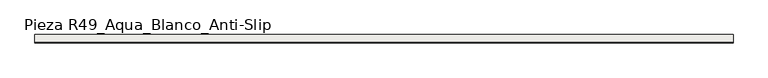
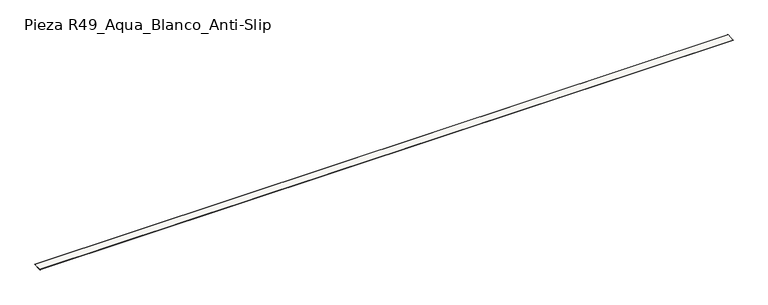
"""IFC4 building model written with IfcOpenShell, lengths in millimetres: slab geometry, ROSA GRES_R49 : Pieza R49_Aqua_Blanco_Anti-Slip."""

from ifc_helpers import new_model, si_unit, point, frame, frame_2d, origin, place, context, project, spatial, polyline, circle_curve, trimmed, segment, composite_curve, outline, extrude, source, transform, mapped, element, save


def pieza_r49_aqua_blanco_anti_slip_4dea29a0(model_context):
    return source(origin(), model_context, "Body", "SweptSolid", [
        extrude(outline(composite_curve([segment(polyline([(70.1539646, 196.3880826), (70.0315861, 197.89159)]), True, "CONTINUOUS"), segment(trimmed(circle_curve(frame_2d((77.8482549, 197.189121)), 7.8481701), [point((70.0315861, 197.89159))], [point((76.6234074, 204.9411222))], False, "CARTESIAN"), True, "CONTINUOUS"), segment(polyline([(76.6234074, 204.9411222), (364.6716123, 228.3869063)]), True, "CONTINUOUS"), segment(trimmed(circle_curve(frame_2d((364.7862135, 226.9789488)), 1.4126139), [point((364.6716123, 228.3869063))], [point((365.5494776, 228.1676059))], False, "CARTESIAN"), True, "CONTINUOUS"), segment(polyline([(365.5494776, 228.1676059), (366.1749837, 220.4828167), (70.1539646, 196.3880826)]), True, "CONTINUOUS")], self_intersect=False)), frame((0.0, 0.0, 0.0), z_axis=(1.0, 0.0, 0.0), x_axis=(0.0, 1.0, 0.0)), (0.0, 0.0, 1.0), 24991.0),
    ])


if __name__ == "__main__":
    model = new_model("IFC4")
    model_context = context("Model", 3, world=origin())
    ifc_project = project(units=[si_unit("LENGTHUNIT", "METRE", prefix="MILLI")], contexts=[model_context])
    site = spatial("IfcSite", under=ifc_project)
    building = spatial("IfcBuilding", under=site)
    placement = place(None, origin())
    pieza_r49_aqua_blanco_anti_slip_shape = pieza_r49_aqua_blanco_anti_slip_4dea29a0(model_context)
    element("IfcSlab", 1, ObjectType="ROSA GRES_R49 : Pieza R49_Aqua_Blanco_Anti-Slip", at=placement, inside=building, context=model_context, shape_type="MappedRepresentation", body=[
        mapped(pieza_r49_aqua_blanco_anti_slip_shape, transform((0.0, 0.0, 0.0), x_axis=(1.0, 0.0, 0.0), y_axis=(0.0, 1.0, 0.0), z_axis=(0.0, 0.0, 1.0))),
    ])
    save(model, "model.ifc")
